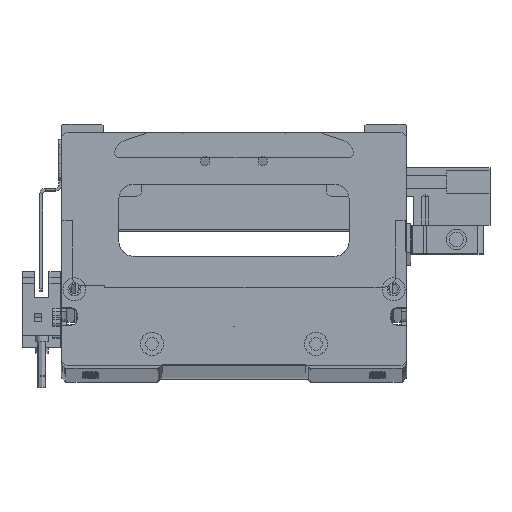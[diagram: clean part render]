
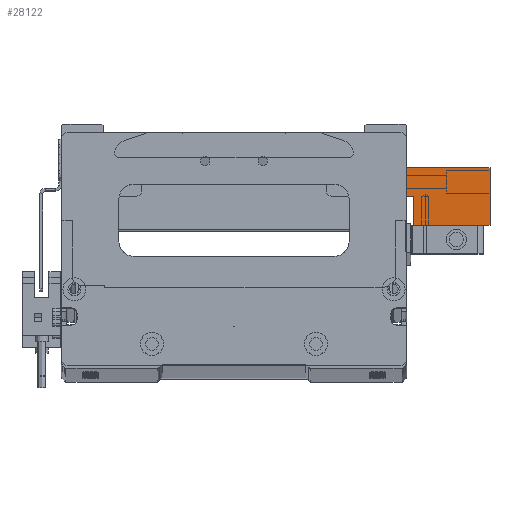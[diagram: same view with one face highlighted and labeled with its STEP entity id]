
A CAD part, top view. The second image highlights one B-rep face of the part: STEP entity #28122.
In plain terms, the highlighted planar face has unit normal (0, 0, 1) as drawn and (-1, 0, 0) by its records, which use the part's own axes.
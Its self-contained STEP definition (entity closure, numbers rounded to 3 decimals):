
#338 = VECTOR ( 'NONE', #31858, 1000. ) ;
#358 = VECTOR ( 'NONE', #5723, 1000. ) ;
#1096 = EDGE_LOOP ( 'NONE', ( #28426, #9456, #9096, #31894, #10703, #22589 ) ) ;
#1435 = EDGE_CURVE ( 'NONE', #12766, #18936, #2255, .T. ) ;
#1561 = EDGE_CURVE ( 'NONE', #24698, #18936, #27659, .T. ) ;
#2255 = LINE ( 'NONE', #9361, #8300 ) ;
#2919 = CARTESIAN_POINT ( 'NONE',  ( -130.52, 35.063, 10. ) ) ;
#3387 = LINE ( 'NONE', #6086, #30784 ) ;
#4543 = DIRECTION ( 'NONE',  ( 0., -1., 0. ) ) ;
#5041 = VERTEX_POINT ( 'NONE', #28904 ) ;
#5225 = CARTESIAN_POINT ( 'NONE',  ( -130.52, 35.063, 20. ) ) ;
#5723 = DIRECTION ( 'NONE',  ( 0., -1., 0. ) ) ;
#6086 = CARTESIAN_POINT ( 'NONE',  ( -130.52, 64.063, 20. ) ) ;
#6973 = DIRECTION ( 'NONE',  ( 0., -1., 0. ) ) ;
#7023 = VECTOR ( 'NONE', #4543, 1000. ) ;
#7834 = LINE ( 'NONE', #28441, #7023 ) ;
#7864 = CARTESIAN_POINT ( 'NONE',  ( -130.52, 64.063, 20. ) ) ;
#7905 = VECTOR ( 'NONE', #12872, 1000. ) ;
#8300 = VECTOR ( 'NONE', #6973, 1000. ) ;
#9096 = ORIENTED_EDGE ( 'NONE', *, *, #20928, .F. ) ;
#9361 = CARTESIAN_POINT ( 'NONE',  ( -130.52, 64.063, 0. ) ) ;
#9456 = ORIENTED_EDGE ( 'NONE', *, *, #12183, .T. ) ;
#10703 = ORIENTED_EDGE ( 'NONE', *, *, #1435, .T. ) ;
#11124 = CARTESIAN_POINT ( 'NONE',  ( -130.52, 35.063, 0. ) ) ;
#12183 = EDGE_CURVE ( 'NONE', #5041, #18819, #25759, .T. ) ;
#12766 = VERTEX_POINT ( 'NONE', #28075 ) ;
#12872 = DIRECTION ( 'NONE',  ( 0., 0., -1. ) ) ;
#13422 = DIRECTION ( 'NONE',  ( 1., 0., 0. ) ) ;
#14341 = EDGE_CURVE ( 'NONE', #16369, #12766, #3387, .T. ) ;
#14583 = CARTESIAN_POINT ( 'NONE',  ( -130.52, 35.063, 10. ) ) ;
#15517 = CARTESIAN_POINT ( 'NONE',  ( -130.52, 37.563, 20. ) ) ;
#16369 = VERTEX_POINT ( 'NONE', #7864 ) ;
#16385 = FACE_OUTER_BOUND ( 'NONE', #1096, .T. ) ;
#18819 = VERTEX_POINT ( 'NONE', #15517 ) ;
#18936 = VERTEX_POINT ( 'NONE', #11124 ) ;
#20928 = EDGE_CURVE ( 'NONE', #16369, #18819, #7834, .T. ) ;
#21171 = DIRECTION ( 'NONE',  ( 0., 0., -1. ) ) ;
#21682 = LINE ( 'NONE', #2919, #358 ) ;
#21939 = CARTESIAN_POINT ( 'NONE',  ( -130.52, 37.563, 10. ) ) ;
#22589 = ORIENTED_EDGE ( 'NONE', *, *, #1561, .F. ) ;
#23922 = CARTESIAN_POINT ( 'NONE',  ( -130.52, 64.063, 20. ) ) ;
#24698 = VERTEX_POINT ( 'NONE', #14583 ) ;
#25759 = LINE ( 'NONE', #21939, #338 ) ;
#25830 = AXIS2_PLACEMENT_3D ( 'NONE', #23922, #13422, #21171 ) ;
#27015 = EDGE_CURVE ( 'NONE', #5041, #24698, #21682, .T. ) ;
#27659 = LINE ( 'NONE', #5225, #7905 ) ;
#28075 = CARTESIAN_POINT ( 'NONE',  ( -130.52, 64.063, 0. ) ) ;
#28122 = ADVANCED_FACE ( 'NONE', ( #16385 ), #28866, .F. ) ;
#28426 = ORIENTED_EDGE ( 'NONE', *, *, #27015, .F. ) ;
#28441 = CARTESIAN_POINT ( 'NONE',  ( -130.52, 64.063, 20. ) ) ;
#28866 = PLANE ( 'NONE',  #25830 ) ;
#28904 = CARTESIAN_POINT ( 'NONE',  ( -130.52, 37.563, 10. ) ) ;
#29502 = DIRECTION ( 'NONE',  ( 0., 0., -1. ) ) ;
#30784 = VECTOR ( 'NONE', #29502, 1000. ) ;
#31858 = DIRECTION ( 'NONE',  ( 0., 0., 1. ) ) ;
#31894 = ORIENTED_EDGE ( 'NONE', *, *, #14341, .T. ) ;
